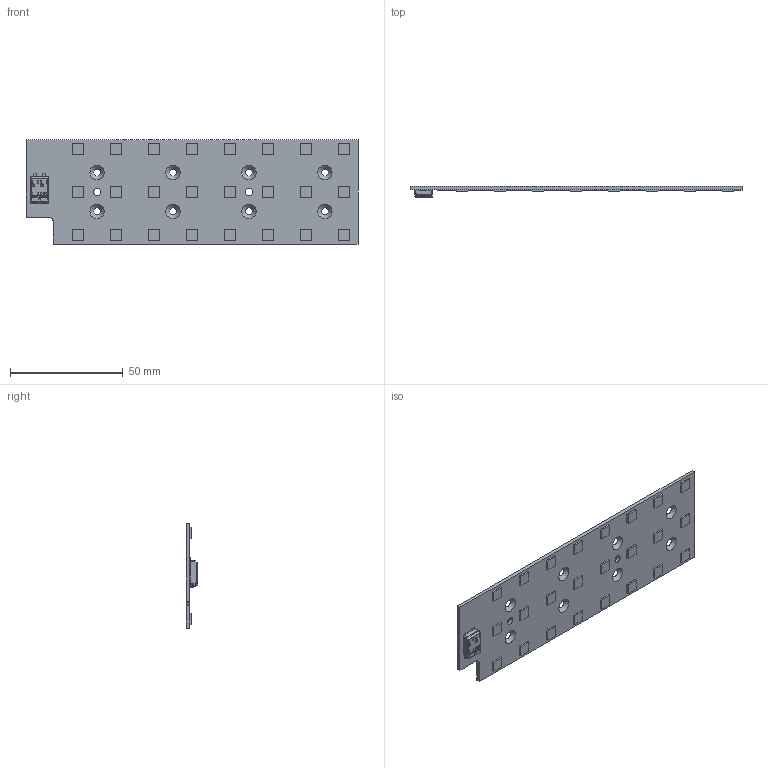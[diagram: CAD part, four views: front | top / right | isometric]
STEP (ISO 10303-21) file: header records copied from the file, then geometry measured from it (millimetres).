
FILE_DESCRIPTION(/* description */ ('Unknown'),/* implementation_level */ '2;1');
FILE_NAME(/* name */ 'RecLED 147x47mm 5800lm 3x8 5050 IP Opt G2 sh-000 2020-18-11',/* time_stamp */ '2021-03-16T13:57:54+01:00',/* author */ ('Unknown'),/* organization */ ('Unknown'),/* preprocessor_version */ 'ST-DEVELOPER v16.7',/* originating_system */ 'Solid Edge',/* authorisation */ 'Unknown');
FILE_SCHEMA (('AUTOMOTIVE_DESIGN {1 0 10303 214 3 1 1}'));
Length unit declared in the file: millimetre
Products named in the file (1): RecLED 147x47mm 5800lm 3x8 5050 IP Opt G2 sh-000 2020-18-11
Bounding box: 147 x 5.05 x 46.2 mm (x, y, z)
Volume: 11042.9 mm3; surface area: 14556.2 mm2
Topology: 1 solids, 1 shells, 590 faces, 1529 edges, 964 vertices
Faces by surface type: plane 335, cylinder 113, bspline 87, cone 34, torus 11, sphere 10
Full cylindrical faces by diameter (mm): 3.2 x2
Entity records: 24176 total; most frequent: CARTESIAN_POINT 6520, ORIENTED_EDGE 3000, DIRECTION 2409, EDGE_CURVE 1500, VERTEX_POINT 959, LINE 947, VECTOR 947, AXIS2_PLACEMENT_3D 731
